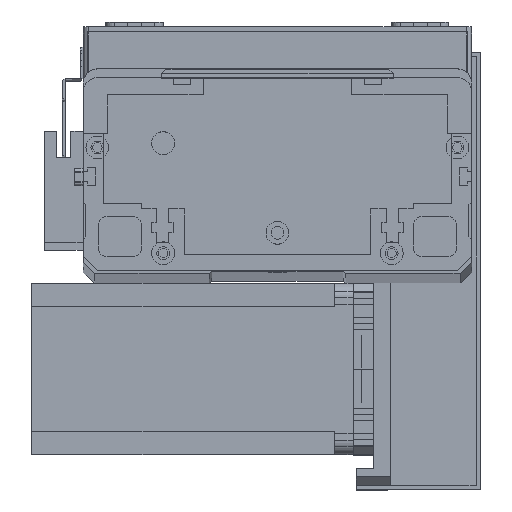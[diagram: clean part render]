
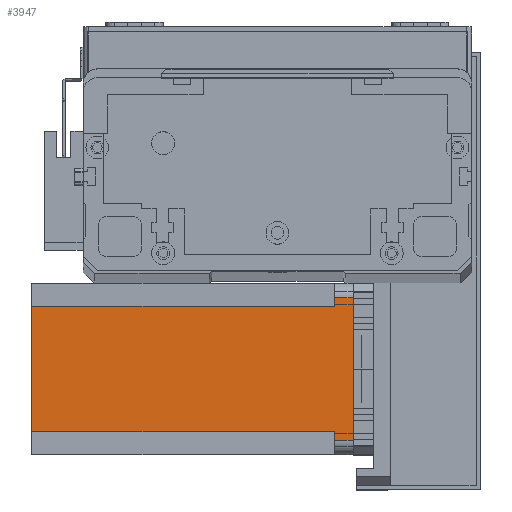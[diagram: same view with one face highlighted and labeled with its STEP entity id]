
A CAD part, top view. The second image highlights one B-rep face of the part: STEP entity #3947.
In plain terms, the highlighted planar face has unit normal (0, 0, 1) as drawn and (0, -1, 0) by its records, which use the part's own axes.
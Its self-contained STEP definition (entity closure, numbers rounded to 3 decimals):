
#302 = VECTOR ( 'NONE', #20216, 1000. ) ;
#331 = LINE ( 'NONE', #5844, #11410 ) ;
#465 = EDGE_CURVE ( 'NONE', #27010, #22809, #1907, .T. ) ;
#777 = VECTOR ( 'NONE', #15904, 1000. ) ;
#1072 = LINE ( 'NONE', #24061, #19105 ) ;
#1784 = LINE ( 'NONE', #3868, #302 ) ;
#1907 = LINE ( 'NONE', #7684, #25992 ) ;
#1980 = CARTESIAN_POINT ( 'NONE',  ( 8., 0., -6.5 ) ) ;
#2094 = EDGE_CURVE ( 'NONE', #22809, #12163, #331, .T. ) ;
#2638 = LINE ( 'NONE', #21447, #28056 ) ;
#3271 = DIRECTION ( 'NONE',  ( 0., 0., 1. ) ) ;
#3868 = CARTESIAN_POINT ( 'NONE',  ( 5., 0., -112.5 ) ) ;
#3947 = ADVANCED_FACE ( 'NONE', ( #5159 ), #16013, .T. ) ;
#4179 = AXIS2_PLACEMENT_3D ( 'NONE', #15541, #15337, #15300 ) ;
#4338 = CARTESIAN_POINT ( 'NONE',  ( 52., 0., -112.5 ) ) ;
#4785 = VERTEX_POINT ( 'NONE', #7494 ) ;
#5159 = FACE_OUTER_BOUND ( 'NONE', #28276, .T. ) ;
#5818 = DIRECTION ( 'NONE',  ( 0., 0., 1. ) ) ;
#5844 = CARTESIAN_POINT ( 'NONE',  ( 55., 0., -112.5 ) ) ;
#6151 = CARTESIAN_POINT ( 'NONE',  ( 52., 0., -6.5 ) ) ;
#6604 = VECTOR ( 'NONE', #17980, 1000. ) ;
#6839 = ORIENTED_EDGE ( 'NONE', *, *, #465, .T. ) ;
#7359 = DIRECTION ( 'NONE',  ( 0., 0., -1. ) ) ;
#7471 = ORIENTED_EDGE ( 'NONE', *, *, #26795, .F. ) ;
#7494 = CARTESIAN_POINT ( 'NONE',  ( 8., 0., -112.5 ) ) ;
#7684 = CARTESIAN_POINT ( 'NONE',  ( 52., 0., -6.5 ) ) ;
#7796 = DIRECTION ( 'NONE',  ( 1., 0., 0. ) ) ;
#7869 = ORIENTED_EDGE ( 'NONE', *, *, #26355, .F. ) ;
#9087 = ORIENTED_EDGE ( 'NONE', *, *, #25021, .T. ) ;
#10103 = DIRECTION ( 'NONE',  ( -1., 0., 0. ) ) ;
#10333 = ORIENTED_EDGE ( 'NONE', *, *, #24689, .F. ) ;
#11410 = VECTOR ( 'NONE', #5818, 1000. ) ;
#12163 = VERTEX_POINT ( 'NONE', #19464 ) ;
#12570 = CARTESIAN_POINT ( 'NONE',  ( 55., 0., -6.5 ) ) ;
#13645 = ORIENTED_EDGE ( 'NONE', *, *, #19090, .T. ) ;
#14258 = CARTESIAN_POINT ( 'NONE',  ( 5., 0., 0. ) ) ;
#14869 = LINE ( 'NONE', #20414, #777 ) ;
#14954 = VECTOR ( 'NONE', #3271, 1000. ) ;
#15206 = CARTESIAN_POINT ( 'NONE',  ( 8., 0., -112.5 ) ) ;
#15300 = DIRECTION ( 'NONE',  ( 0., 0., -1. ) ) ;
#15337 = DIRECTION ( 'NONE',  ( 0., -1., 0. ) ) ;
#15541 = CARTESIAN_POINT ( 'NONE',  ( 0., 0., -112.5 ) ) ;
#15669 = CARTESIAN_POINT ( 'NONE',  ( 0., 0., 0. ) ) ;
#15837 = ORIENTED_EDGE ( 'NONE', *, *, #2094, .T. ) ;
#15904 = DIRECTION ( 'NONE',  ( 1., 0., 0. ) ) ;
#16013 = PLANE ( 'NONE',  #4179 ) ;
#17980 = DIRECTION ( 'NONE',  ( 1., 0., 0. ) ) ;
#18695 = VERTEX_POINT ( 'NONE', #14258 ) ;
#19090 = EDGE_CURVE ( 'NONE', #18695, #19910, #1784, .T. ) ;
#19105 = VECTOR ( 'NONE', #10103, 1000. ) ;
#19376 = CARTESIAN_POINT ( 'NONE',  ( 5., 0., -6.5 ) ) ;
#19464 = CARTESIAN_POINT ( 'NONE',  ( 55., 0., 0. ) ) ;
#19910 = VERTEX_POINT ( 'NONE', #19376 ) ;
#20216 = DIRECTION ( 'NONE',  ( 0., 0., -1. ) ) ;
#20414 = CARTESIAN_POINT ( 'NONE',  ( 0., 0., -112.5 ) ) ;
#21342 = VERTEX_POINT ( 'NONE', #1980 ) ;
#21447 = CARTESIAN_POINT ( 'NONE',  ( 52., 0., -112.5 ) ) ;
#21697 = ORIENTED_EDGE ( 'NONE', *, *, #22326, .F. ) ;
#22326 = EDGE_CURVE ( 'NONE', #4785, #21342, #27095, .T. ) ;
#22809 = VERTEX_POINT ( 'NONE', #12570 ) ;
#24061 = CARTESIAN_POINT ( 'NONE',  ( 8., 0., -6.5 ) ) ;
#24689 = EDGE_CURVE ( 'NONE', #27010, #27772, #2638, .T. ) ;
#25021 = EDGE_CURVE ( 'NONE', #4785, #27772, #14869, .T. ) ;
#25221 = LINE ( 'NONE', #15669, #6604 ) ;
#25992 = VECTOR ( 'NONE', #7796, 1000. ) ;
#26355 = EDGE_CURVE ( 'NONE', #18695, #12163, #25221, .T. ) ;
#26795 = EDGE_CURVE ( 'NONE', #21342, #19910, #1072, .T. ) ;
#27010 = VERTEX_POINT ( 'NONE', #6151 ) ;
#27095 = LINE ( 'NONE', #15206, #14954 ) ;
#27772 = VERTEX_POINT ( 'NONE', #4338 ) ;
#28056 = VECTOR ( 'NONE', #7359, 1000. ) ;
#28276 = EDGE_LOOP ( 'NONE', ( #6839, #15837, #7869, #13645, #7471, #21697, #9087, #10333 ) ) ;
